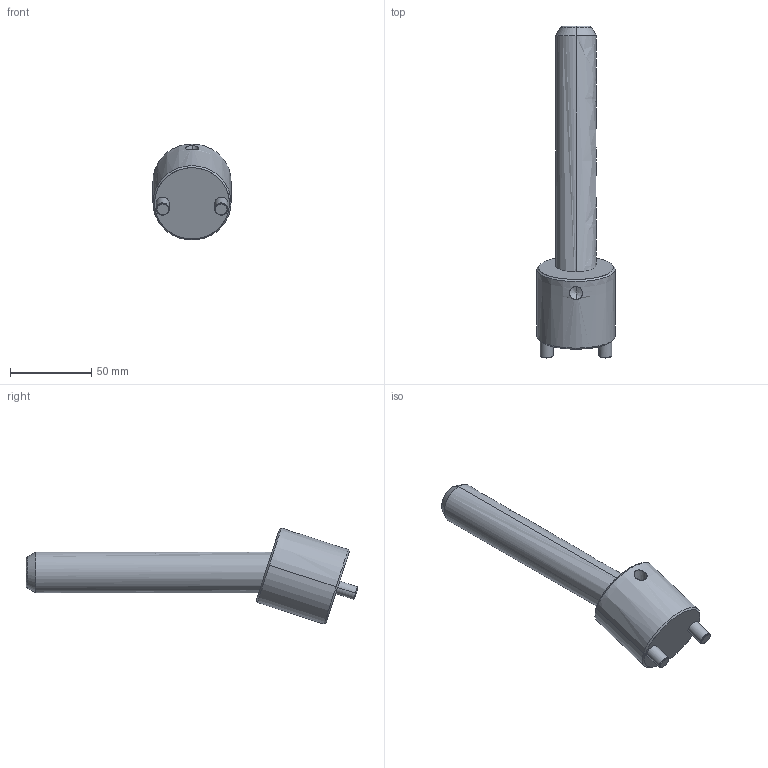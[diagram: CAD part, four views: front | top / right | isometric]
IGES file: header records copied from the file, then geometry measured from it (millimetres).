
Start section: START RECORD GO HERE.
Global section: file name: CI1825150.igs; native system: DASSAULT SYSTEMES CATIA V5 R20 - www.3ds.com; preprocessor: CATIA Version 5 Release 20 ; author: r.borello; organization: CFTORINO; date: 20190624.094609; units: millimetre
Bounding box: 48 x 203.84 x 58.94 mm (x, y, z)
Surface area: 29326.8 mm2 (no closed solid volume)
Topology: 0 solids, 0 shells, 39 faces, 162 edges, 160 vertices
Faces by surface type: revolution 32, plane 7
